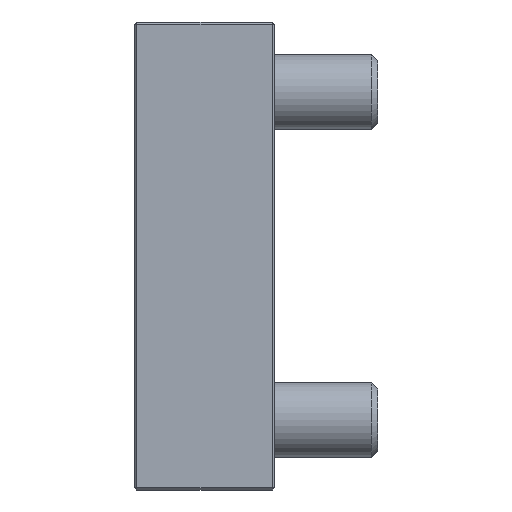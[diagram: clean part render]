
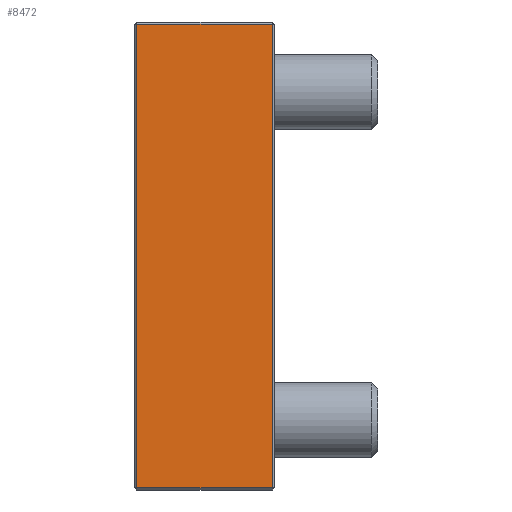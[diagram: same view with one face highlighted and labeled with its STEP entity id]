
A CAD part, left-side view. The second image highlights one B-rep face of the part: STEP entity #8472.
In plain terms, the highlighted planar face has unit normal (-1, 0, 0).
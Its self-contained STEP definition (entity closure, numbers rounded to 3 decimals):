
#103 = LINE ( 'NONE', #3280, #10135 ) ;
#293 = DIRECTION ( 'NONE',  ( 0., 0., -1. ) ) ;
#829 = VECTOR ( 'NONE', #5767, 1000. ) ;
#837 = DIRECTION ( 'NONE',  ( 0., 0., -1. ) ) ;
#1579 = CARTESIAN_POINT ( 'NONE',  ( 0., 29.5, -99.5 ) ) ;
#1764 = VECTOR ( 'NONE', #293, 1000. ) ;
#1805 = VERTEX_POINT ( 'NONE', #1579 ) ;
#2080 = ORIENTED_EDGE ( 'NONE', *, *, #9732, .T. ) ;
#2214 = CARTESIAN_POINT ( 'NONE',  ( 0., 0.5, -99.5 ) ) ;
#2857 = VERTEX_POINT ( 'NONE', #9852 ) ;
#2906 = CARTESIAN_POINT ( 'NONE',  ( 0., 30., -0.5 ) ) ;
#3280 = CARTESIAN_POINT ( 'NONE',  ( 0., 30., -99.5 ) ) ;
#3411 = LINE ( 'NONE', #9859, #1764 ) ;
#4709 = VERTEX_POINT ( 'NONE', #2214 ) ;
#4883 = DIRECTION ( 'NONE',  ( 0., -1., 0. ) ) ;
#4887 = CARTESIAN_POINT ( 'NONE',  ( 0., 0.5, 0. ) ) ;
#5068 = CARTESIAN_POINT ( 'NONE',  ( 0., 0.5, -0.5 ) ) ;
#5392 = LINE ( 'NONE', #2906, #8899 ) ;
#5767 = DIRECTION ( 'NONE',  ( 0., 0., 1. ) ) ;
#6020 = EDGE_CURVE ( 'NONE', #2857, #1805, #3411, .T. ) ;
#6393 = AXIS2_PLACEMENT_3D ( 'NONE', #8041, #8112, #837 ) ;
#6880 = DIRECTION ( 'NONE',  ( 0., 1., 0. ) ) ;
#7099 = EDGE_CURVE ( 'NONE', #1805, #4709, #103, .T. ) ;
#7238 = ORIENTED_EDGE ( 'NONE', *, *, #7099, .T. ) ;
#8029 = VERTEX_POINT ( 'NONE', #5068 ) ;
#8041 = CARTESIAN_POINT ( 'NONE',  ( 0., 30., 0. ) ) ;
#8097 = LINE ( 'NONE', #4887, #829 ) ;
#8112 = DIRECTION ( 'NONE',  ( 1., 0., 0. ) ) ;
#8472 = ADVANCED_FACE ( 'NONE', ( #9563 ), #8852, .F. ) ;
#8601 = ORIENTED_EDGE ( 'NONE', *, *, #8887, .T. ) ;
#8694 = EDGE_LOOP ( 'NONE', ( #8780, #7238, #2080, #8601 ) ) ;
#8780 = ORIENTED_EDGE ( 'NONE', *, *, #6020, .T. ) ;
#8852 = PLANE ( 'NONE',  #6393 ) ;
#8887 = EDGE_CURVE ( 'NONE', #8029, #2857, #5392, .T. ) ;
#8899 = VECTOR ( 'NONE', #6880, 1000. ) ;
#9563 = FACE_OUTER_BOUND ( 'NONE', #8694, .T. ) ;
#9732 = EDGE_CURVE ( 'NONE', #4709, #8029, #8097, .T. ) ;
#9852 = CARTESIAN_POINT ( 'NONE',  ( 0., 29.5, -0.5 ) ) ;
#9859 = CARTESIAN_POINT ( 'NONE',  ( 0., 29.5, 0. ) ) ;
#10135 = VECTOR ( 'NONE', #4883, 1000. ) ;
